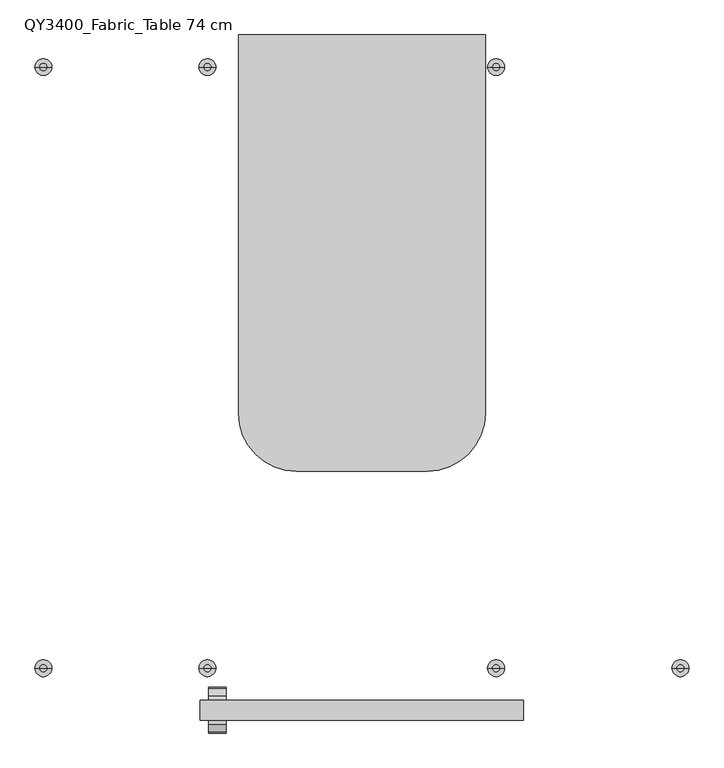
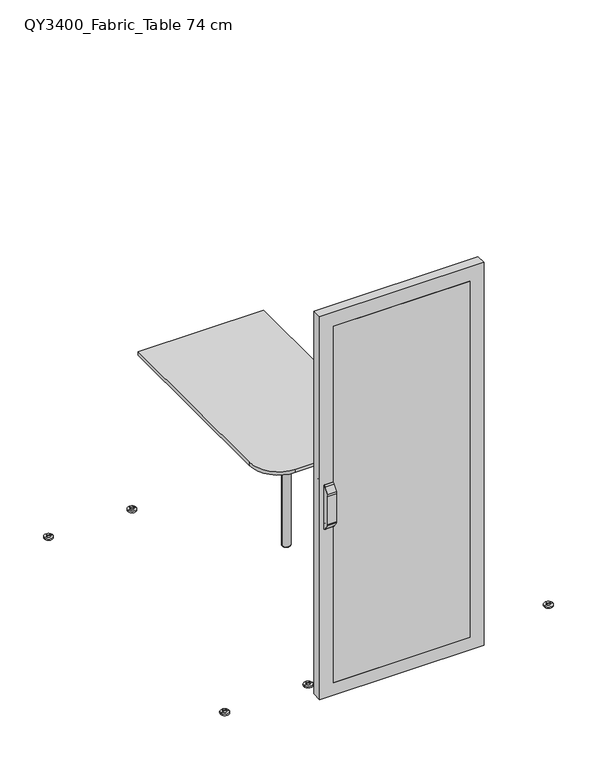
"""IFC4 building model written with IfcOpenShell, lengths in millimetres: furniture geometry, Qyos_400 : QY3400_Fabric_Table 74 cm."""

from ifc_helpers import new_model, si_unit, point, frame, frame_2d, origin, origin_with_axes, place, context, project, spatial, polyline, circle_curve, ellipse_curve, trimmed, segment, composite_curve, outline, extrude, source, transform, mapped, element, save
from ifc_brep_helpers import plane_surface, cylinder_surface, revolved_surface, advanced_brep


def qy3400_fabric_table_74_cm_427fdd12(model_context):
    return source(origin(), model_context, "Body", "SolidModel", [
        advanced_brep(
        [(-374.085107, -970.6314016, 980.9779398), (-374.085107, -970.6314016, 985.9647191), (-374.085107, -982.9469969, 991.7354618), (-374.085107, -1000.0438473, 1019.0961419), (-374.085107, -1002.6320377, 1028.7554001), (-374.085107, -1002.6320377, 1173.7554001), (-374.085107, -998.2020658, 1196.5456299), (-374.085107, -981.4262787, 1221.4167571), (-374.085107, -970.6314016, 1224.0702851), (-374.085107, -970.6314016, 1230.9669096), (-374.085107, -982.162848, 1226.3079029), (-374.085107, -1002.7819627, 1194.5572505), (-374.085107, -1005.5, 1186.1919919), (-374.085107, -1005.5, 1025.2), (-374.085107, -1002.5610872, 1017.1254034), (-374.085107, -982.1968679, 985.7672556), (-422.0329647, -970.6314016, 1230.9669096), (-422.0329647, -970.6314016, 980.9779398), (-422.0329647, -982.1968679, 985.7672556), (-422.0329647, -1002.5610872, 1017.1254034), (-422.0329647, -1005.5, 1025.2), (-422.0329647, -1005.5, 1186.1919919), (-422.0329647, -1002.7819627, 1194.5572505), (-422.0329647, -982.162848, 1226.3079029), (-419.3636893, -970.6314016, 1224.0702851), (-419.3636893, -970.6314016, 985.9647191), (-419.3636893, -982.9469969, 991.7354618), (-419.3636893, -981.4262787, 1221.4167571), (-419.3636893, -998.2020658, 1196.5456299), (-419.3636893, -1002.6320377, 1173.7554001), (-419.3636893, -1002.6320377, 1028.7554001), (-419.3636893, -1000.0438473, 1019.0961419)],
        [
            (0, 1),
            (1, 2, circle_curve(frame((-374.085107, -970.4805644, 1002.3136249), z_axis=(-1.0, 0.0, 0.0), x_axis=(0.0, -1.0, 0.0)), 16.3496016)),
            (2, 3, circle_curve(frame((-374.085107, 675.4570487, 2047.0433119), z_axis=(-1.0, 0.0, 0.0), x_axis=(0.0, -1.0, 0.0)), 1965.7005461)),
            (3, 4, circle_curve(frame((-374.085107, -985.0644692, 1028.286235), z_axis=(-1.0, 0.0, 0.0), x_axis=(0.0, -1.0, 0.0)), 17.5738323)),
            (4, 5),
            (5, 6, circle_curve(frame((-374.085107, -941.7942676, 1173.7554001), z_axis=(-1.0, 0.0, 0.0), x_axis=(0.0, -1.0, 0.0)), 60.8377701)),
            (6, 7, circle_curve(frame((-374.085107, -1257.3576761, 1389.4415655), z_axis=(1.0, 0.0, 0.0), x_axis=(0.0, -1.0, 0.0)), 323.0641922)),
            (7, 8, circle_curve(frame((-374.085107, -970.6314016, 1200.7860796), z_axis=(-1.0, 0.0, 0.0), x_axis=(0.0, -1.0, 0.0)), 23.2842055)),
            (8, 9),
            (9, 10, circle_curve(frame((-374.085107, -972.4087289, 1218.7657801), z_axis=(1.0, 0.0, 0.0), x_axis=(0.0, -1.0, 0.0)), 12.3299009)),
            (10, 11, circle_curve(frame((-374.085107, -373.9237769, 808.7424006), z_axis=(1.0, 0.0, 0.0), x_axis=(0.0, -1.0, 0.0)), 737.777552)),
            (11, 12, circle_curve(frame((-374.085107, -986.7589098, 1184.7268438), z_axis=(1.0, 0.0, 0.0), x_axis=(0.0, -1.0, 0.0)), 18.7982744)),
            (12, 13),
            (13, 14, circle_curve(frame((-374.085107, -958.525418, 1037.7252129), z_axis=(1.0, 0.0, 0.0), x_axis=(0.0, -1.0, 0.0)), 48.615762)),
            (14, 15, circle_curve(frame((-374.085107, -605.5394908, 1252.6628295), z_axis=(1.0, 0.0, 0.0), x_axis=(0.0, -1.0, 0.0)), 461.6319174)),
            (15, 0, circle_curve(frame((-374.085107, -972.6091735, 992.560998), z_axis=(1.0, 0.0, 0.0), x_axis=(0.0, -1.0, 0.0)), 11.7506945)),
            (16, 17),
            (17, 18, circle_curve(frame((-422.0329647, -972.6091735, 992.560998), z_axis=(-1.0, 0.0, 0.0), x_axis=(0.0, -1.0, 0.0)), 11.7506945)),
            (18, 19, circle_curve(frame((-422.0329647, -605.5394908, 1252.6628295), z_axis=(-1.0, 0.0, 0.0), x_axis=(0.0, -1.0, 0.0)), 461.6319174)),
            (19, 20, circle_curve(frame((-422.0329647, -958.525418, 1037.7252129), z_axis=(-1.0, 0.0, 0.0), x_axis=(0.0, -1.0, 0.0)), 48.615762)),
            (20, 21),
            (21, 22, circle_curve(frame((-422.0329647, -986.7589098, 1184.7268438), z_axis=(-1.0, 0.0, 0.0), x_axis=(0.0, -1.0, 0.0)), 18.7982744)),
            (22, 23, circle_curve(frame((-422.0329647, -373.9237769, 808.7424006), z_axis=(-1.0, 0.0, 0.0), x_axis=(0.0, -1.0, 0.0)), 737.777552)),
            (23, 16, circle_curve(frame((-422.0329647, -972.4087289, 1218.7657801), z_axis=(-1.0, 0.0, 0.0), x_axis=(0.0, -1.0, 0.0)), 12.3299009)),
            (16, 9),
            (8, 24),
            (24, 25),
            (25, 1),
            (0, 17),
            (15, 18),
            (14, 19),
            (13, 20),
            (12, 21),
            (11, 22),
            (10, 23),
            (26, 25, circle_curve(frame((-419.3636893, -970.4805644, 1002.3136249), z_axis=(1.0, 0.0, 0.0), x_axis=(0.0, -1.0, 0.0)), 16.3496016)),
            (24, 27, circle_curve(frame((-419.3636893, -970.6314016, 1200.7860796), z_axis=(1.0, 0.0, 0.0), x_axis=(0.0, -1.0, 0.0)), 23.2842055)),
            (27, 28, circle_curve(frame((-419.3636893, -1257.3576761, 1389.4415655), z_axis=(-1.0, 0.0, 0.0), x_axis=(0.0, -1.0, 0.0)), 323.0641922)),
            (28, 29, circle_curve(frame((-419.3636893, -941.7942676, 1173.7554001), z_axis=(1.0, 0.0, 0.0), x_axis=(0.0, -1.0, 0.0)), 60.8377701)),
            (29, 30),
            (30, 31, circle_curve(frame((-419.3636893, -985.0644692, 1028.286235), z_axis=(1.0, 0.0, 0.0), x_axis=(0.0, -1.0, 0.0)), 17.5738323)),
            (31, 26, circle_curve(frame((-419.3636893, 675.4570487, 2047.0433119), z_axis=(1.0, 0.0, 0.0), x_axis=(0.0, -1.0, 0.0)), 1965.7005461)),
            (26, 2),
            (31, 3),
            (30, 4),
            (29, 5),
            (28, 6),
            (27, 7),
        ],
        [
            plane_surface(frame((-374.085107, -970.6314016, 980.9779398), z_axis=(1.0, 0.0, 0.0), x_axis=(0.0, 0.0, -1.0))),
            plane_surface(frame((-422.0329647, -970.6314016, 980.9779398), z_axis=(-1.0, 0.0, 0.0), x_axis=(0.0, 0.0, 1.0))),
            plane_surface(frame((-374.085107, -970.6314016, 1230.9669096), z_axis=(0.0, 1.0, 0.0), x_axis=(-1.0, 0.0, 0.0))),
            cylinder_surface(frame((-422.0329647, -972.6091735, 992.560998), z_axis=(1.0, 0.0, 0.0), x_axis=(0.0, -1.0, 0.0)), 11.7506945),
            cylinder_surface(frame((-422.0329647, -605.5394908, 1252.6628295), z_axis=(1.0, 0.0, 0.0), x_axis=(0.0, -1.0, 0.0)), 461.6319174),
            cylinder_surface(frame((-422.0329647, -958.525418, 1037.7252129), z_axis=(1.0, 0.0, 0.0), x_axis=(0.0, -1.0, 0.0)), 48.615762),
            plane_surface(frame((-374.085107, -1005.5, 1025.2), z_axis=(0.0, -1.0, 0.0), x_axis=(-1.0, 0.0, 0.0))),
            cylinder_surface(frame((-422.0329647, -986.7589098, 1184.7268438), z_axis=(1.0, 0.0, 0.0), x_axis=(0.0, -1.0, 0.0)), 18.7982744),
            cylinder_surface(frame((-422.0329647, -373.9237769, 808.7424006), z_axis=(1.0, 0.0, 0.0), x_axis=(0.0, -1.0, 0.0)), 737.777552),
            cylinder_surface(frame((-422.0329647, -972.4087289, 1218.7657801), z_axis=(1.0, 0.0, 0.0), x_axis=(0.0, -1.0, 0.0)), 12.3299009),
            plane_surface(frame((-419.3636893, -956.7185794, 1224.0702851), z_axis=(1.0, 0.0, 0.0), x_axis=(0.0, 0.0, 1.0))),
            revolved_surface(polyline([(-374.085107, -986.8301660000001, 1002.3136249), (-419.3636893, -986.8301660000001, 1002.3136249)]), (-419.3636893, -970.4805644, 1002.3136249), (1.0, 0.0, 0.0)),
            revolved_surface(polyline([(-374.085107, -1290.2434974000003, 2047.0433119), (-419.3636893, -1290.2434974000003, 2047.0433119)]), (-419.3636893, 675.4570487, 2047.0433119), (1.0, 0.0, 0.0)),
            revolved_surface(polyline([(-374.085107, -1002.6383015, 1028.286235), (-419.3636893, -1002.6383015, 1028.286235)]), (-419.3636893, -985.0644692, 1028.286235), (1.0, 0.0, 0.0)),
            plane_surface(frame((-366.879078, -1002.6320377, 1028.7554001), z_axis=(0.0, 1.0, 0.0), x_axis=(-1.0, 0.0, 0.0))),
            revolved_surface(polyline([(-374.085107, -1002.6320377, 1173.7554001), (-419.3636893, -1002.6320377, 1173.7554001)]), (-419.3636893, -941.7942676, 1173.7554001), (1.0, 0.0, 0.0)),
            cylinder_surface(frame((-419.3636893, -1257.3576761, 1389.4415655), z_axis=(-1.0, 0.0, 0.0), x_axis=(0.0, -1.0, 0.0)), 323.0641922),
            revolved_surface(polyline([(-374.085107, -993.9156071, 1200.7860796), (-419.3636893, -993.9156071, 1200.7860796)]), (-419.3636893, -970.6314016, 1200.7860796), (1.0, 0.0, 0.0)),
        ],
        [
            (0, [[1, 2, 3, 4, 5, 6, 7, 8, 9, 10, 11, 12, 13, 14, 15, 16]]),
            (1, [[17, 18, 19, 20, 21, 22, 23, 24]]),
            (2, [[25, -9, 26, 27, 28, -1, 29, -17]]),
            (3, [[30, -18, -29, -16]]),
            (4, [[31, -19, -30, -15]]),
            (5, [[32, -20, -31, -14]]),
            (6, [[33, -21, -32, -13]]),
            (7, [[34, -22, -33, -12]]),
            (8, [[35, -23, -34, -11]]),
            (9, [[-25, -24, -35, -10]]),
            (10, [[36, -27, 37, 38, 39, 40, 41, 42]]),
            (11, [[43, -2, -28, -36]]),
            (12, [[44, -3, -43, -42]]),
            (13, [[45, -4, -44, -41]]),
            (14, [[46, -5, -45, -40]]),
            (15, [[47, -6, -46, -39]]),
            (16, [[48, -7, -47, -38]]),
            (17, [[-26, -8, -48, -37]]),
        ],
    ),
        extrude(outline(composite_curve([segment(polyline([(1230.9669096, -377.0853832), (1230.9669096, -417.0486701)]), True, "CONTINUOUS"), segment(trimmed(circle_curve(frame_2d((1225.973762, -417.0486701)), 4.9931477), [point((1230.9669096, -417.0486701))], [point((1225.973762, -422.0418178))], False, "CARTESIAN"), True, "CONTINUOUS"), segment(polyline([(1225.973762, -422.0418178), (985.9710874, -422.0418178)]), True, "CONTINUOUS"), segment(trimmed(circle_curve(frame_2d((985.9710874, -417.0486701)), 4.9931477), [point((985.9710874, -422.0418178))], [point((980.9779398, -417.0486701))], False, "CARTESIAN"), True, "CONTINUOUS"), segment(polyline([(980.9779398, -417.0486701), (980.9779398, -377.0831887)]), True, "CONTINUOUS"), segment(trimmed(circle_curve(frame_2d((983.9760215, -377.0831887)), 2.9980817), [point((980.9779398, -377.0831887))], [point((983.9760215, -374.085107))], False, "CARTESIAN"), True, "CONTINUOUS"), segment(polyline([(983.9760215, -374.085107), (985.9777208, -374.085107)]), True, "CONTINUOUS"), segment(trimmed(circle_curve(frame_2d((985.9777208, -376.3357001)), 2.2505931), [point((985.9777208, -374.085107))], [point((988.1941223, -375.9448887))], False, "CARTESIAN"), True, "CONTINUOUS"), segment(trimmed(circle_curve(frame_2d((1002.686839, -375.1402608)), 14.5150358), [point((988.1941223, -375.9448887))], [point((999.6402401, -389.331966))], True, "CARTESIAN"), True, "CONTINUOUS"), segment(trimmed(circle_curve(frame_2d((999.3564071, -397.3512428)), 8.0242982), [point((999.6402401, -389.331966))], [point((1007.3803501, -397.4267349))], False, "CARTESIAN"), True, "CONTINUOUS"), segment(trimmed(circle_curve(frame_2d((984.8527266, -400.9632944)), 22.803532), [point((1007.3803501, -397.4267349))], [point((1007.3098217, -404.9230861))], False, "CARTESIAN"), True, "CONTINUOUS"), segment(trimmed(circle_curve(frame_2d((1018.7344643, -406.9375589)), 11.600886), [point((1007.3098217, -404.9230861))], [point((1018.7344643, -418.5384449))], True, "CARTESIAN"), True, "CONTINUOUS"), segment(polyline([(1018.7344643, -418.5384449), (1193.2103851, -418.5384449)]), True, "CONTINUOUS"), segment(trimmed(circle_curve(frame_2d((1193.2103851, -406.5714853)), 11.9669596), [point((1193.2103851, -418.5384449))], [point((1205.1773447, -406.5714853))], True, "CARTESIAN"), True, "CONTINUOUS"), segment(polyline([(1205.1773447, -406.5714853), (1205.1773447, -398.0395804)]), True, "CONTINUOUS"), segment(trimmed(circle_curve(frame_2d((1213.8757406, -398.0395804)), 8.6983958), [point((1205.1773447, -398.0395804))], [point((1212.36528, -389.4733327))], False, "CARTESIAN"), True, "CONTINUOUS"), segment(trimmed(circle_curve(frame_2d((1209.9037954, -375.5135599)), 14.1751248), [point((1212.36528, -389.4733327))], [point((1224.0702851, -376.0082646))], True, "CARTESIAN"), True, "CONTINUOUS"), segment(trimmed(circle_curve(frame_2d((1225.9934427, -376.0082646)), 1.9231576), [point((1224.0702851, -376.0082646))], [point((1225.9934427, -374.085107))], False, "CARTESIAN"), True, "CONTINUOUS"), segment(polyline([(1225.9934427, -374.085107), (1227.9666334, -374.085107)]), True, "CONTINUOUS"), segment(trimmed(circle_curve(frame_2d((1227.9666334, -377.0853832)), 3.0002762), [point((1227.9666334, -374.085107))], [point((1230.9669096, -377.0853832))], False, "CARTESIAN"), True, "CONTINUOUS")], self_intersect=False)), frame((0.0, -970.6314016, 0.0), z_axis=(0.0, 1.0, 0.0), x_axis=(0.0, 0.0, 1.0)), (0.0, 0.0, 1.0), 0.6314016),
        advanced_brep(
        [(-374.085107, -914.3642803, 980.9779398), (-374.085107, -902.798814, 985.7672556), (-374.085107, -882.4345947, 1017.1254034), (-374.085107, -879.4956819, 1025.2), (-374.085107, -879.4956819, 1186.1919919), (-374.085107, -882.2137192, 1194.5572505), (-374.085107, -902.8328339, 1226.3079029), (-374.085107, -914.3642803, 1230.9669096), (-374.085107, -914.3642803, 1224.0702851), (-374.085107, -903.5694032, 1221.4167571), (-374.085107, -886.7936161, 1196.5456299), (-374.085107, -882.3636441, 1173.7554001), (-374.085107, -882.3636441, 1028.7554001), (-374.085107, -884.9518346, 1019.0961419), (-374.085107, -902.048685, 991.7354618), (-374.085107, -914.3642803, 985.9647191), (-422.0329647, -914.3642803, 1230.9669096), (-422.0329647, -902.8328339, 1226.3079029), (-422.0329647, -882.2137192, 1194.5572505), (-422.0329647, -879.4956819, 1186.1919919), (-422.0329647, -879.4956819, 1025.2), (-422.0329647, -882.4345947, 1017.1254034), (-422.0329647, -902.798814, 985.7672556), (-422.0329647, -914.3642803, 980.9779398), (-419.3636893, -914.3642803, 985.9647191), (-419.3636893, -914.3642803, 1224.0702851), (-419.3636893, -902.048685, 991.7354618), (-419.3636893, -884.9518346, 1019.0961419), (-419.3636893, -882.3636441, 1028.7554001), (-419.3636893, -882.3636441, 1173.7554001), (-419.3636893, -886.7936161, 1196.5456299), (-419.3636893, -903.5694032, 1221.4167571)],
        [
            (0, 1, circle_curve(frame((-374.085107, -912.3865084, 992.560998), z_axis=(1.0, 0.0, 0.0), x_axis=(0.0, 1.0, 0.0)), 11.7506945)),
            (1, 2, circle_curve(frame((-374.085107, -1279.4561911, 1252.6628295), z_axis=(1.0, 0.0, 0.0), x_axis=(0.0, 1.0, 0.0)), 461.6319174)),
            (2, 3, circle_curve(frame((-374.085107, -926.4702639, 1037.7252129), z_axis=(1.0, 0.0, 0.0), x_axis=(0.0, 1.0, 0.0)), 48.615762)),
            (3, 4),
            (4, 5, circle_curve(frame((-374.085107, -898.236772, 1184.7268438), z_axis=(1.0, 0.0, 0.0), x_axis=(0.0, 1.0, 0.0)), 18.7982744)),
            (5, 6, circle_curve(frame((-374.085107, -1511.071905, 808.7424006), z_axis=(1.0, 0.0, 0.0), x_axis=(0.0, 1.0, 0.0)), 737.777552)),
            (6, 7, circle_curve(frame((-374.085107, -912.586953, 1218.7657801), z_axis=(1.0, 0.0, 0.0), x_axis=(0.0, 1.0, 0.0)), 12.3299009)),
            (7, 8),
            (8, 9, circle_curve(frame((-374.085107, -914.3642803, 1200.7860796), z_axis=(-1.0, 0.0, 0.0), x_axis=(0.0, 1.0, 0.0)), 23.2842055)),
            (9, 10, circle_curve(frame((-374.085107, -627.6380058, 1389.4415655), z_axis=(1.0, 0.0, 0.0), x_axis=(0.0, 1.0, 0.0)), 323.0641922)),
            (10, 11, circle_curve(frame((-374.085107, -943.2014142, 1173.7554001), z_axis=(-1.0, 0.0, 0.0), x_axis=(0.0, 1.0, 0.0)), 60.8377701)),
            (11, 12),
            (12, 13, circle_curve(frame((-374.085107, -899.9312127, 1028.286235), z_axis=(-1.0, 0.0, 0.0), x_axis=(0.0, 1.0, 0.0)), 17.5738323)),
            (13, 14, circle_curve(frame((-374.085107, -2560.4527306, 2047.0433119), z_axis=(-1.0, 0.0, 0.0), x_axis=(0.0, 1.0, 0.0)), 1965.7005461)),
            (14, 15, circle_curve(frame((-374.085107, -914.5151175, 1002.3136249), z_axis=(-1.0, 0.0, 0.0), x_axis=(0.0, 1.0, 0.0)), 16.3496016)),
            (15, 0),
            (16, 17, circle_curve(frame((-422.0329647, -912.586953, 1218.7657801), z_axis=(-1.0, 0.0, 0.0), x_axis=(0.0, 1.0, 0.0)), 12.3299009)),
            (17, 18, circle_curve(frame((-422.0329647, -1511.071905, 808.7424006), z_axis=(-1.0, 0.0, 0.0), x_axis=(0.0, 1.0, 0.0)), 737.777552)),
            (18, 19, circle_curve(frame((-422.0329647, -898.236772, 1184.7268438), z_axis=(-1.0, 0.0, 0.0), x_axis=(0.0, 1.0, 0.0)), 18.7982744)),
            (19, 20),
            (20, 21, circle_curve(frame((-422.0329647, -926.4702639, 1037.7252129), z_axis=(-1.0, 0.0, 0.0), x_axis=(0.0, 1.0, 0.0)), 48.615762)),
            (21, 22, circle_curve(frame((-422.0329647, -1279.4561911, 1252.6628295), z_axis=(-1.0, 0.0, 0.0), x_axis=(0.0, 1.0, 0.0)), 461.6319174)),
            (22, 23, circle_curve(frame((-422.0329647, -912.3865084, 992.560998), z_axis=(-1.0, 0.0, 0.0), x_axis=(0.0, 1.0, 0.0)), 11.7506945)),
            (23, 16),
            (23, 0),
            (15, 24),
            (24, 25),
            (25, 8),
            (7, 16),
            (22, 1),
            (21, 2),
            (20, 3),
            (19, 4),
            (18, 5),
            (17, 6),
            (26, 27, circle_curve(frame((-419.3636893, -2560.4527306, 2047.0433119), z_axis=(1.0, 0.0, 0.0), x_axis=(0.0, 1.0, 0.0)), 1965.7005461)),
            (27, 28, circle_curve(frame((-419.3636893, -899.9312127, 1028.286235), z_axis=(1.0, 0.0, 0.0), x_axis=(0.0, 1.0, 0.0)), 17.5738323)),
            (28, 29),
            (29, 30, circle_curve(frame((-419.3636893, -943.2014142, 1173.7554001), z_axis=(1.0, 0.0, 0.0), x_axis=(0.0, 1.0, 0.0)), 60.8377701)),
            (30, 31, circle_curve(frame((-419.3636893, -627.6380058, 1389.4415655), z_axis=(-1.0, 0.0, 0.0), x_axis=(0.0, 1.0, 0.0)), 323.0641922)),
            (31, 25, circle_curve(frame((-419.3636893, -914.3642803, 1200.7860796), z_axis=(1.0, 0.0, 0.0), x_axis=(0.0, 1.0, 0.0)), 23.2842055)),
            (24, 26, circle_curve(frame((-419.3636893, -914.5151175, 1002.3136249), z_axis=(1.0, 0.0, 0.0), x_axis=(0.0, 1.0, 0.0)), 16.3496016)),
            (14, 26),
            (13, 27),
            (12, 28),
            (11, 29),
            (10, 30),
            (9, 31),
        ],
        [
            plane_surface(frame((-374.085107, -914.3642803, 980.9779398), z_axis=(1.0, 0.0, 0.0), x_axis=(0.0, 0.0, -1.0))),
            plane_surface(frame((-422.0329647, -914.3642803, 980.9779398), z_axis=(-1.0, 0.0, 0.0), x_axis=(0.0, 0.0, 1.0))),
            plane_surface(frame((-374.085107, -914.3642803, 1230.9669096), z_axis=(0.0, -1.0, 0.0), x_axis=(-1.0, 0.0, 0.0))),
            cylinder_surface(frame((-422.0329647, -912.3865084, 992.560998), z_axis=(1.0, 0.0, 0.0), x_axis=(0.0, 1.0, 0.0)), 11.7506945),
            cylinder_surface(frame((-422.0329647, -1279.4561911, 1252.6628295), z_axis=(1.0, 0.0, 0.0), x_axis=(0.0, 1.0, 0.0)), 461.6319174),
            cylinder_surface(frame((-422.0329647, -926.4702639, 1037.7252129), z_axis=(1.0, 0.0, 0.0), x_axis=(0.0, 1.0, 0.0)), 48.615762),
            plane_surface(frame((-374.085107, -879.4956819, 1025.2), z_axis=(0.0, 1.0, 0.0), x_axis=(-1.0, 0.0, 0.0))),
            cylinder_surface(frame((-422.0329647, -898.236772, 1184.7268438), z_axis=(1.0, 0.0, 0.0), x_axis=(0.0, 1.0, 0.0)), 18.7982744),
            cylinder_surface(frame((-422.0329647, -1511.071905, 808.7424006), z_axis=(1.0, 0.0, 0.0), x_axis=(0.0, 1.0, 0.0)), 737.777552),
            cylinder_surface(frame((-422.0329647, -912.586953, 1218.7657801), z_axis=(1.0, 0.0, 0.0), x_axis=(0.0, 1.0, 0.0)), 12.3299009),
            plane_surface(frame((-419.3636893, -928.2771024, 1224.0702851), z_axis=(1.0, 0.0, 0.0), x_axis=(0.0, 0.0, 1.0))),
            revolved_surface(polyline([(-374.085107, -898.1655159, 1002.3136249), (-419.3636893, -898.1655159, 1002.3136249)]), (-419.3636893, -914.5151175, 1002.3136249), (1.0, 0.0, 0.0)),
            revolved_surface(polyline([(-374.085107, -594.7521844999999, 2047.0433119), (-419.3636893, -594.7521844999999, 2047.0433119)]), (-419.3636893, -2560.4527306, 2047.0433119), (1.0, 0.0, 0.0)),
            revolved_surface(polyline([(-374.085107, -882.3573803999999, 1028.286235), (-419.3636893, -882.3573803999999, 1028.286235)]), (-419.3636893, -899.9312127, 1028.286235), (1.0, 0.0, 0.0)),
            plane_surface(frame((-366.879078, -882.3636441, 1028.7554001), z_axis=(0.0, -1.0, 0.0), x_axis=(-1.0, 0.0, 0.0))),
            revolved_surface(polyline([(-374.085107, -882.3636441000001, 1173.7554001), (-419.3636893, -882.3636441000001, 1173.7554001)]), (-419.3636893, -943.2014142, 1173.7554001), (1.0, 0.0, 0.0)),
            cylinder_surface(frame((-419.3636893, -627.6380058, 1389.4415655), z_axis=(-1.0, 0.0, 0.0), x_axis=(0.0, 1.0, 0.0)), 323.0641922),
            revolved_surface(polyline([(-374.085107, -891.0800748, 1200.7860796), (-419.3636893, -891.0800748, 1200.7860796)]), (-419.3636893, -914.3642803, 1200.7860796), (1.0, 0.0, 0.0)),
        ],
        [
            (0, [[1, 2, 3, 4, 5, 6, 7, 8, 9, 10, 11, 12, 13, 14, 15, 16]]),
            (1, [[17, 18, 19, 20, 21, 22, 23, 24]]),
            (2, [[-24, 25, -16, 26, 27, 28, -8, 29]]),
            (3, [[-1, -25, -23, 30]]),
            (4, [[-2, -30, -22, 31]]),
            (5, [[-3, -31, -21, 32]]),
            (6, [[-4, -32, -20, 33]]),
            (7, [[-5, -33, -19, 34]]),
            (8, [[-6, -34, -18, 35]]),
            (9, [[-7, -35, -17, -29]]),
            (10, [[36, 37, 38, 39, 40, 41, -27, 42]]),
            (11, [[-42, -26, -15, 43]]),
            (12, [[-36, -43, -14, 44]]),
            (13, [[-37, -44, -13, 45]]),
            (14, [[-38, -45, -12, 46]]),
            (15, [[-39, -46, -11, 47]]),
            (16, [[-40, -47, -10, 48]]),
            (17, [[-41, -48, -9, -28]]),
        ],
    ),
        extrude(outline(composite_curve([segment(polyline([(1230.9669096, -377.0853832), (1230.9669096, -417.0486701)]), True, "CONTINUOUS"), segment(trimmed(circle_curve(frame_2d((1225.973762, -417.0486701)), 4.9931477), [point((1230.9669096, -417.0486701))], [point((1225.973762, -422.0418178))], False, "CARTESIAN"), True, "CONTINUOUS"), segment(polyline([(1225.973762, -422.0418178), (985.9710874, -422.0418178)]), True, "CONTINUOUS"), segment(trimmed(circle_curve(frame_2d((985.9710874, -417.0486701)), 4.9931477), [point((985.9710874, -422.0418178))], [point((980.9779398, -417.0486701))], False, "CARTESIAN"), True, "CONTINUOUS"), segment(polyline([(980.9779398, -417.0486701), (980.9779398, -377.0831887)]), True, "CONTINUOUS"), segment(trimmed(circle_curve(frame_2d((983.9760215, -377.0831887)), 2.9980817), [point((980.9779398, -377.0831887))], [point((983.9760215, -374.085107))], False, "CARTESIAN"), True, "CONTINUOUS"), segment(polyline([(983.9760215, -374.085107), (985.9777208, -374.085107)]), True, "CONTINUOUS"), segment(trimmed(circle_curve(frame_2d((985.9777208, -376.3357001)), 2.2505931), [point((985.9777208, -374.085107))], [point((988.1941223, -375.9448887))], False, "CARTESIAN"), True, "CONTINUOUS"), segment(trimmed(circle_curve(frame_2d((1002.686839, -375.1402608)), 14.5150358), [point((988.1941223, -375.9448887))], [point((999.6402401, -389.331966))], True, "CARTESIAN"), True, "CONTINUOUS"), segment(trimmed(circle_curve(frame_2d((999.3564071, -397.3512428)), 8.0242982), [point((999.6402401, -389.331966))], [point((1007.3803501, -397.4267349))], False, "CARTESIAN"), True, "CONTINUOUS"), segment(trimmed(circle_curve(frame_2d((984.8527266, -400.9632944)), 22.803532), [point((1007.3803501, -397.4267349))], [point((1007.3098217, -404.9230861))], False, "CARTESIAN"), True, "CONTINUOUS"), segment(trimmed(circle_curve(frame_2d((1018.7344643, -406.9375589)), 11.600886), [point((1007.3098217, -404.9230861))], [point((1018.7344643, -418.5384449))], True, "CARTESIAN"), True, "CONTINUOUS"), segment(polyline([(1018.7344643, -418.5384449), (1193.2103851, -418.5384449)]), True, "CONTINUOUS"), segment(trimmed(circle_curve(frame_2d((1193.2103851, -406.5714853)), 11.9669596), [point((1193.2103851, -418.5384449))], [point((1205.1773447, -406.5714853))], True, "CARTESIAN"), True, "CONTINUOUS"), segment(polyline([(1205.1773447, -406.5714853), (1205.1773447, -398.0395804)]), True, "CONTINUOUS"), segment(trimmed(circle_curve(frame_2d((1213.8757406, -398.0395804)), 8.6983958), [point((1205.1773447, -398.0395804))], [point((1212.36528, -389.4733327))], False, "CARTESIAN"), True, "CONTINUOUS"), segment(trimmed(circle_curve(frame_2d((1209.9037954, -375.5135599)), 14.1751248), [point((1212.36528, -389.4733327))], [point((1224.0702851, -376.0082646))], True, "CARTESIAN"), True, "CONTINUOUS"), segment(trimmed(circle_curve(frame_2d((1225.9934427, -376.0082646)), 1.9231576), [point((1224.0702851, -376.0082646))], [point((1225.9934427, -374.085107))], False, "CARTESIAN"), True, "CONTINUOUS"), segment(polyline([(1225.9934427, -374.085107), (1227.9666334, -374.085107)]), True, "CONTINUOUS"), segment(trimmed(circle_curve(frame_2d((1227.9666334, -377.0853832)), 3.0002762), [point((1227.9666334, -374.085107))], [point((1230.9669096, -377.0853832))], False, "CARTESIAN"), True, "CONTINUOUS")], self_intersect=False)), frame((0.0, -914.9956819, 0.0), z_axis=(0.0, 1.0, 0.0), x_axis=(0.0, 0.0, 1.0)), (0.0, 0.0, 1.0), 0.6314016),
        extrude(outline(polyline([(369.5, -970.0), (-369.5, -970.0), (-369.5, -965.0), (369.5, -965.0), (369.5, -970.0)])), frame((0.0, 0.0, 82.0), z_axis=(0.0, 0.0, 1.0), x_axis=(1.0, 0.0, 0.0)), (0.0, 0.0, 1.0), 2040.1),
        extrude(outline(polyline([(10.0, -445.0), (10.0, 445.0), (2202.1, 445.0), (2202.1, -445.0), (10.0, -445.0)]), holes=[polyline([(82.0, 369.5), (82.0, -369.5), (2122.1, -369.5), (2122.1, 369.5), (82.0, 369.5)])]), frame((0.0, -970.0, 0.0), z_axis=(0.0, 1.0, 0.0), x_axis=(0.0, 0.0, 1.0)), (0.0, 0.0, 1.0), 55.0043181),
        advanced_brep(
        [(-18.7621631, 115.0, 82.0), (18.7621631, 115.0, 82.0), (0.0, 115.0, 82.0), (-22.480604, 115.0, 85.7184409), (22.480604, 115.0, 85.7184409), (-22.480604, 115.0, 803.0), (22.480604, 115.0, 803.0), (0.0, 115.0, 803.0)],
        [
            (0, 1, circle_curve(frame((0.0, 115.0, 82.0), z_axis=(0.0, 0.0, -1.0), x_axis=(1.0, 0.0, 0.0)), 18.7621631)),
            (1, 2),
            (2, 0),
            (1, 0, circle_curve(frame((0.0, 115.0, 82.0), z_axis=(0.0, 0.0, -1.0), x_axis=(1.0, 0.0, 0.0)), 18.7621631)),
            (3, 4, circle_curve(frame((0.0, 115.0, 85.7184409), z_axis=(0.0, 0.0, -1.0), x_axis=(1.0, 0.0, 0.0)), 22.480604)),
            (4, 1, circle_curve(frame((16.4330916, 115.0, 88.0475124), z_axis=(0.0, 1.0, 0.0), x_axis=(1.0, 0.0, 0.0)), 6.4805077)),
            (0, 3, circle_curve(frame((-16.4330916, 115.0, 88.0475124), z_axis=(0.0, 1.0, 0.0), x_axis=(-1.0, 0.0, 0.0)), 6.4805077)),
            (4, 3, circle_curve(frame((0.0, 115.0, 85.7184409), z_axis=(0.0, 0.0, -1.0), x_axis=(1.0, 0.0, 0.0)), 22.480604)),
            (5, 6, circle_curve(frame((0.0, 115.0, 803.0), z_axis=(0.0, 0.0, -1.0), x_axis=(1.0, 0.0, 0.0)), 22.480604)),
            (6, 4),
            (3, 5),
            (6, 5, circle_curve(frame((0.0, 115.0, 803.0), z_axis=(0.0, 0.0, -1.0), x_axis=(1.0, 0.0, 0.0)), 22.480604)),
            (7, 6),
            (5, 7),
        ],
        [
            plane_surface(frame((0.0, 115.0, 82.0), z_axis=(0.0, 0.0, -1.0), x_axis=(1.0, 0.0, 0.0))),
            revolved_surface(trimmed(ellipse_curve(frame((16.4330916, 115.0, 88.0475124), z_axis=(0.0, -1.0, 0.0), x_axis=(1.0, 0.0, 0.0)), 6.4805077, 6.4805077), [point((18.7621631, 115.0, 82.0))], [point((22.480604, 115.0, 85.7184409))], True, "CARTESIAN"), (0.0, 115.0, 1997.4144888), (0.0, 0.0, 1.0)),
            cylinder_surface(frame((0.0, 115.0, 1997.4144888), z_axis=(0.0, 0.0, 1.0), x_axis=(1.0, 0.0, 0.0)), 22.480604),
            plane_surface(frame((0.0, 115.0, 803.0), z_axis=(0.0, 0.0, 1.0), x_axis=(1.0, 0.0, 0.0))),
        ],
        [
            (0, [[1, 2, 3]]),
            (0, [[4, -3, -2]]),
            (1, [[5, 6, -1, 7]]),
            (1, [[8, -7, -4, -6]]),
            (2, [[9, 10, -5, 11]]),
            (2, [[12, -11, -8, -10]]),
            (3, [[13, -9, 14]]),
            (3, [[-14, -12, -13]]),
        ],
    ),
        extrude(outline(composite_curve([segment(polyline([(340.0, 915.0), (340.0, -125.0)]), True, "CONTINUOUS"), segment(trimmed(circle_curve(frame_2d((180.0, -125.0)), 160.0), [point((340.0, -125.0))], [point((180.0, -285.0))], False, "CARTESIAN"), True, "CONTINUOUS"), segment(polyline([(180.0, -285.0), (-180.0, -285.0)]), True, "CONTINUOUS"), segment(trimmed(circle_curve(frame_2d((-180.0, -125.0)), 160.0), [point((-180.0, -285.0))], [point((-340.0, -125.0))], False, "CARTESIAN"), True, "CONTINUOUS"), segment(polyline([(-340.0, -125.0), (-340.0, 915.0), (340.0, 915.0)]), True, "CONTINUOUS")], self_intersect=False)), frame((0.0, 0.0, 803.0), z_axis=(0.0, 0.0, 1.0), x_axis=(1.0, 0.0, 0.0)), (0.0, 0.0, 1.0), 19.0),
        advanced_brep(
        [(346.4071662, -827.0, 0.0), (392.690095, -827.0, 0.0), (369.5486306, -827.0, 0.0), (346.4071662, -827.0, 7.0), (392.690095, -827.0, 7.0), (359.9101752, -827.0, 7.0), (379.187086, -827.0, 7.0), (359.9101752, -827.0, 17.0), (379.187086, -827.0, 17.0), (369.5486306, -827.0, 17.0)],
        [
            (0, 1, circle_curve(frame((369.5486306, -827.0, 0.0), z_axis=(0.0, 0.0, -1.0), x_axis=(1.0, 0.0, 0.0)), 23.1414644)),
            (1, 2),
            (2, 0),
            (1, 0, circle_curve(frame((369.5486306, -827.0, 0.0), z_axis=(0.0, 0.0, -1.0), x_axis=(1.0, 0.0, 0.0)), 23.1414644)),
            (3, 4, circle_curve(frame((369.5486306, -827.0, 7.0), z_axis=(0.0, 0.0, -1.0), x_axis=(1.0, 0.0, 0.0)), 23.1414644)),
            (4, 1),
            (0, 3),
            (4, 3, circle_curve(frame((369.5486306, -827.0, 7.0), z_axis=(0.0, 0.0, -1.0), x_axis=(1.0, 0.0, 0.0)), 23.1414644)),
            (5, 6, circle_curve(frame((369.5486306, -827.0, 7.0), z_axis=(0.0, 0.0, -1.0), x_axis=(1.0, 0.0, 0.0)), 9.6384554)),
            (6, 4),
            (3, 5),
            (6, 5, circle_curve(frame((369.5486306, -827.0, 7.0), z_axis=(0.0, 0.0, -1.0), x_axis=(1.0, 0.0, 0.0)), 9.6384554)),
            (7, 8, circle_curve(frame((369.5486306, -827.0, 17.0), z_axis=(0.0, 0.0, -1.0), x_axis=(1.0, 0.0, 0.0)), 9.6384554)),
            (8, 6),
            (5, 7),
            (8, 7, circle_curve(frame((369.5486306, -827.0, 17.0), z_axis=(0.0, 0.0, -1.0), x_axis=(1.0, 0.0, 0.0)), 9.6384554)),
            (9, 8),
            (7, 9),
        ],
        [
            plane_surface(frame((369.5486306, -827.0, 0.0), z_axis=(0.0, 0.0, -1.0), x_axis=(1.0, 0.0, 0.0))),
            cylinder_surface(frame((369.5486306, -827.0, 1997.4144888), z_axis=(0.0, 0.0, 1.0), x_axis=(1.0, 0.0, 0.0)), 23.1414644),
            plane_surface(frame((369.5486306, -827.0, 7.0), z_axis=(0.0, 0.0, 1.0), x_axis=(1.0, 0.0, 0.0))),
            cylinder_surface(frame((369.5486306, -827.0, 1997.4144888), z_axis=(0.0, 0.0, 1.0), x_axis=(1.0, 0.0, 0.0)), 9.6384554),
            plane_surface(frame((369.5486306, -827.0, 17.0), z_axis=(0.0, 0.0, 1.0), x_axis=(1.0, 0.0, 0.0))),
        ],
        [
            (0, [[1, 2, 3]]),
            (0, [[4, -3, -2]]),
            (1, [[5, 6, -1, 7]]),
            (1, [[8, -7, -4, -6]]),
            (2, [[9, 10, -5, 11]]),
            (2, [[12, -11, -8, -10]]),
            (3, [[13, 14, -9, 15]]),
            (3, [[16, -15, -12, -14]]),
            (4, [[17, -13, 18]]),
            (4, [[-18, -16, -17]]),
        ],
    ),
        extrude(outline(composite_curve([segment(trimmed(circle_curve(frame_2d((369.5486306, -827.0)), 23.1414644), [point((346.4071662, -827.0))], [point((392.690095, -827.0))], False, "CARTESIAN"), True, "CONTINUOUS"), segment(trimmed(circle_curve(frame_2d((369.5486306, -827.0)), 23.1414644), [point((392.690095, -827.0))], [point((346.4071662, -827.0))], False, "CARTESIAN"), True, "CONTINUOUS")], self_intersect=False)), origin_with_axes(), (0.0, 0.0, 1.0), 7.0),
        advanced_brep(
        [(346.4071662, 827.0, 0.0), (392.690095, 827.0, 0.0), (369.5486306, 827.0, 0.0), (346.4071662, 827.0, 7.0), (392.690095, 827.0, 7.0), (359.9101752, 827.0, 7.0), (379.187086, 827.0, 7.0), (359.9101752, 827.0, 17.0), (379.187086, 827.0, 17.0), (369.5486306, 827.0, 17.0)],
        [
            (0, 1, circle_curve(frame((369.5486306, 827.0, 0.0), z_axis=(0.0, 0.0, -1.0), x_axis=(1.0, 0.0, 0.0)), 23.1414644)),
            (1, 2),
            (2, 0),
            (1, 0, circle_curve(frame((369.5486306, 827.0, 0.0), z_axis=(0.0, 0.0, -1.0), x_axis=(1.0, 0.0, 0.0)), 23.1414644)),
            (3, 4, circle_curve(frame((369.5486306, 827.0, 7.0), z_axis=(0.0, 0.0, -1.0), x_axis=(1.0, 0.0, 0.0)), 23.1414644)),
            (4, 1),
            (0, 3),
            (4, 3, circle_curve(frame((369.5486306, 827.0, 7.0), z_axis=(0.0, 0.0, -1.0), x_axis=(1.0, 0.0, 0.0)), 23.1414644)),
            (5, 6, circle_curve(frame((369.5486306, 827.0, 7.0), z_axis=(0.0, 0.0, -1.0), x_axis=(1.0, 0.0, 0.0)), 9.6384554)),
            (6, 4),
            (3, 5),
            (6, 5, circle_curve(frame((369.5486306, 827.0, 7.0), z_axis=(0.0, 0.0, -1.0), x_axis=(1.0, 0.0, 0.0)), 9.6384554)),
            (7, 8, circle_curve(frame((369.5486306, 827.0, 17.0), z_axis=(0.0, 0.0, -1.0), x_axis=(1.0, 0.0, 0.0)), 9.6384554)),
            (8, 6),
            (5, 7),
            (8, 7, circle_curve(frame((369.5486306, 827.0, 17.0), z_axis=(0.0, 0.0, -1.0), x_axis=(1.0, 0.0, 0.0)), 9.6384554)),
            (9, 8),
            (7, 9),
        ],
        [
            plane_surface(frame((369.5486306, 827.0, 0.0), z_axis=(0.0, 0.0, -1.0), x_axis=(1.0, 0.0, 0.0))),
            cylinder_surface(frame((369.5486306, 827.0, 1997.4144888), z_axis=(0.0, 0.0, 1.0), x_axis=(1.0, 0.0, 0.0)), 23.1414644),
            plane_surface(frame((369.5486306, 827.0, 7.0), z_axis=(0.0, 0.0, 1.0), x_axis=(1.0, 0.0, 0.0))),
            cylinder_surface(frame((369.5486306, 827.0, 1997.4144888), z_axis=(0.0, 0.0, 1.0), x_axis=(1.0, 0.0, 0.0)), 9.6384554),
            plane_surface(frame((369.5486306, 827.0, 17.0), z_axis=(0.0, 0.0, 1.0), x_axis=(1.0, 0.0, 0.0))),
        ],
        [
            (0, [[1, 2, 3]]),
            (0, [[4, -3, -2]]),
            (1, [[5, 6, -1, 7]]),
            (1, [[8, -7, -4, -6]]),
            (2, [[9, 10, -5, 11]]),
            (2, [[12, -11, -8, -10]]),
            (3, [[13, 14, -9, 15]]),
            (3, [[16, -15, -12, -14]]),
            (4, [[17, -13, 18]]),
            (4, [[-18, -16, -17]]),
        ],
    ),
        extrude(outline(composite_curve([segment(trimmed(circle_curve(frame_2d((369.5486306, 827.0)), 23.1414644), [point((346.4071662, 827.0))], [point((392.690095, 827.0))], False, "CARTESIAN"), True, "CONTINUOUS"), segment(trimmed(circle_curve(frame_2d((369.5486306, 827.0)), 23.1414644), [point((392.690095, 827.0))], [point((346.4071662, 827.0))], False, "CARTESIAN"), True, "CONTINUOUS")], self_intersect=False)), origin_with_axes(), (0.0, 0.0, 1.0), 7.0),
        advanced_brep(
        [(853.8585356, -827.0, 0.0), (900.1414644, -827.0, 0.0), (877.0, -827.0, 0.0), (853.8585356, -827.0, 7.0), (900.1414644, -827.0, 7.0), (867.3615446, -827.0, 7.0), (886.6384554, -827.0, 7.0), (867.3615446, -827.0, 17.0), (886.6384554, -827.0, 17.0), (877.0, -827.0, 17.0)],
        [
            (0, 1, circle_curve(frame((877.0, -827.0, 0.0), z_axis=(0.0, 0.0, -1.0), x_axis=(1.0, 0.0, 0.0)), 23.1414644)),
            (1, 2),
            (2, 0),
            (1, 0, circle_curve(frame((877.0, -827.0, 0.0), z_axis=(0.0, 0.0, -1.0), x_axis=(1.0, 0.0, 0.0)), 23.1414644)),
            (3, 4, circle_curve(frame((877.0, -827.0, 7.0), z_axis=(0.0, 0.0, -1.0), x_axis=(1.0, 0.0, 0.0)), 23.1414644)),
            (4, 1),
            (0, 3),
            (4, 3, circle_curve(frame((877.0, -827.0, 7.0), z_axis=(0.0, 0.0, -1.0), x_axis=(1.0, 0.0, 0.0)), 23.1414644)),
            (5, 6, circle_curve(frame((877.0, -827.0, 7.0), z_axis=(0.0, 0.0, -1.0), x_axis=(1.0, 0.0, 0.0)), 9.6384554)),
            (6, 4),
            (3, 5),
            (6, 5, circle_curve(frame((877.0, -827.0, 7.0), z_axis=(0.0, 0.0, -1.0), x_axis=(1.0, 0.0, 0.0)), 9.6384554)),
            (7, 8, circle_curve(frame((877.0, -827.0, 17.0), z_axis=(0.0, 0.0, -1.0), x_axis=(1.0, 0.0, 0.0)), 9.6384554)),
            (8, 6),
            (5, 7),
            (8, 7, circle_curve(frame((877.0, -827.0, 17.0), z_axis=(0.0, 0.0, -1.0), x_axis=(1.0, 0.0, 0.0)), 9.6384554)),
            (9, 8),
            (7, 9),
        ],
        [
            plane_surface(frame((877.0, -827.0, 0.0), z_axis=(0.0, 0.0, -1.0), x_axis=(1.0, 0.0, 0.0))),
            cylinder_surface(frame((877.0, -827.0, 1997.4144888), z_axis=(0.0, 0.0, 1.0), x_axis=(1.0, 0.0, 0.0)), 23.1414644),
            plane_surface(frame((877.0, -827.0, 7.0), z_axis=(0.0, 0.0, 1.0), x_axis=(1.0, 0.0, 0.0))),
            cylinder_surface(frame((877.0, -827.0, 1997.4144888), z_axis=(0.0, 0.0, 1.0), x_axis=(1.0, 0.0, 0.0)), 9.6384554),
            plane_surface(frame((877.0, -827.0, 17.0), z_axis=(0.0, 0.0, 1.0), x_axis=(1.0, 0.0, 0.0))),
        ],
        [
            (0, [[1, 2, 3]]),
            (0, [[4, -3, -2]]),
            (1, [[5, 6, -1, 7]]),
            (1, [[8, -7, -4, -6]]),
            (2, [[9, 10, -5, 11]]),
            (2, [[12, -11, -8, -10]]),
            (3, [[13, 14, -9, 15]]),
            (3, [[16, -15, -12, -14]]),
            (4, [[17, -13, 18]]),
            (4, [[-18, -16, -17]]),
        ],
    ),
        extrude(outline(composite_curve([segment(trimmed(circle_curve(frame_2d((877.0, -827.0)), 23.1414644), [point((853.8585356, -827.0))], [point((900.1414644, -827.0))], False, "CARTESIAN"), True, "CONTINUOUS"), segment(trimmed(circle_curve(frame_2d((877.0, -827.0)), 23.1414644), [point((900.1414644, -827.0))], [point((853.8585356, -827.0))], False, "CARTESIAN"), True, "CONTINUOUS")], self_intersect=False)), origin_with_axes(), (0.0, 0.0, 1.0), 7.0),
        advanced_brep(
        [(-448.1414644, -827.0, 0.0), (-401.8585356, -827.0, 0.0), (-425.0, -827.0, 0.0), (-448.1414644, -827.0, 7.0), (-401.8585356, -827.0, 7.0), (-434.6384554, -827.0, 7.0), (-415.3615446, -827.0, 7.0), (-434.6384554, -827.0, 17.0), (-415.3615446, -827.0, 17.0), (-425.0, -827.0, 17.0)],
        [
            (0, 1, circle_curve(frame((-425.0, -827.0, 0.0), z_axis=(0.0, 0.0, -1.0), x_axis=(1.0, 0.0, 0.0)), 23.1414644)),
            (1, 2),
            (2, 0),
            (1, 0, circle_curve(frame((-425.0, -827.0, 0.0), z_axis=(0.0, 0.0, -1.0), x_axis=(1.0, 0.0, 0.0)), 23.1414644)),
            (3, 4, circle_curve(frame((-425.0, -827.0, 7.0), z_axis=(0.0, 0.0, -1.0), x_axis=(1.0, 0.0, 0.0)), 23.1414644)),
            (4, 1),
            (0, 3),
            (4, 3, circle_curve(frame((-425.0, -827.0, 7.0), z_axis=(0.0, 0.0, -1.0), x_axis=(1.0, 0.0, 0.0)), 23.1414644)),
            (5, 6, circle_curve(frame((-425.0, -827.0, 7.0), z_axis=(0.0, 0.0, -1.0), x_axis=(1.0, 0.0, 0.0)), 9.6384554)),
            (6, 4),
            (3, 5),
            (6, 5, circle_curve(frame((-425.0, -827.0, 7.0), z_axis=(0.0, 0.0, -1.0), x_axis=(1.0, 0.0, 0.0)), 9.6384554)),
            (7, 8, circle_curve(frame((-425.0, -827.0, 17.0), z_axis=(0.0, 0.0, -1.0), x_axis=(1.0, 0.0, 0.0)), 9.6384554)),
            (8, 6),
            (5, 7),
            (8, 7, circle_curve(frame((-425.0, -827.0, 17.0), z_axis=(0.0, 0.0, -1.0), x_axis=(1.0, 0.0, 0.0)), 9.6384554)),
            (9, 8),
            (7, 9),
        ],
        [
            plane_surface(frame((-425.0, -827.0, 0.0), z_axis=(0.0, 0.0, -1.0), x_axis=(1.0, 0.0, 0.0))),
            cylinder_surface(frame((-425.0, -827.0, 1997.4144888), z_axis=(0.0, 0.0, 1.0), x_axis=(1.0, 0.0, 0.0)), 23.1414644),
            plane_surface(frame((-425.0, -827.0, 7.0), z_axis=(0.0, 0.0, 1.0), x_axis=(1.0, 0.0, 0.0))),
            cylinder_surface(frame((-425.0, -827.0, 1997.4144888), z_axis=(0.0, 0.0, 1.0), x_axis=(1.0, 0.0, 0.0)), 9.6384554),
            plane_surface(frame((-425.0, -827.0, 17.0), z_axis=(0.0, 0.0, 1.0), x_axis=(1.0, 0.0, 0.0))),
        ],
        [
            (0, [[1, 2, 3]]),
            (0, [[4, -3, -2]]),
            (1, [[5, 6, -1, 7]]),
            (1, [[8, -7, -4, -6]]),
            (2, [[9, 10, -5, 11]]),
            (2, [[12, -11, -8, -10]]),
            (3, [[13, 14, -9, 15]]),
            (3, [[16, -15, -12, -14]]),
            (4, [[17, -13, 18]]),
            (4, [[-18, -16, -17]]),
        ],
    ),
        extrude(outline(composite_curve([segment(trimmed(circle_curve(frame_2d((-425.0, -827.0)), 23.1414644), [point((-448.1414644, -827.0))], [point((-401.8585356, -827.0))], False, "CARTESIAN"), True, "CONTINUOUS"), segment(trimmed(circle_curve(frame_2d((-425.0, -827.0)), 23.1414644), [point((-401.8585356, -827.0))], [point((-448.1414644, -827.0))], False, "CARTESIAN"), True, "CONTINUOUS")], self_intersect=False)), origin_with_axes(), (0.0, 0.0, 1.0), 7.0),
        advanced_brep(
        [(-900.1414644, -827.0, 0.0), (-853.8585356, -827.0, 0.0), (-877.0, -827.0, 0.0), (-900.1414644, -827.0, 7.0), (-853.8585356, -827.0, 7.0), (-886.6384554, -827.0, 7.0), (-867.3615446, -827.0, 7.0), (-886.6384554, -827.0, 17.0), (-867.3615446, -827.0, 17.0), (-877.0, -827.0, 17.0)],
        [
            (0, 1, circle_curve(frame((-877.0, -827.0, 0.0), z_axis=(0.0, 0.0, -1.0), x_axis=(1.0, 0.0, 0.0)), 23.1414644)),
            (1, 2),
            (2, 0),
            (1, 0, circle_curve(frame((-877.0, -827.0, 0.0), z_axis=(0.0, 0.0, -1.0), x_axis=(1.0, 0.0, 0.0)), 23.1414644)),
            (3, 4, circle_curve(frame((-877.0, -827.0, 7.0), z_axis=(0.0, 0.0, -1.0), x_axis=(1.0, 0.0, 0.0)), 23.1414644)),
            (4, 1),
            (0, 3),
            (4, 3, circle_curve(frame((-877.0, -827.0, 7.0), z_axis=(0.0, 0.0, -1.0), x_axis=(1.0, 0.0, 0.0)), 23.1414644)),
            (5, 6, circle_curve(frame((-877.0, -827.0, 7.0), z_axis=(0.0, 0.0, -1.0), x_axis=(1.0, 0.0, 0.0)), 9.6384554)),
            (6, 4),
            (3, 5),
            (6, 5, circle_curve(frame((-877.0, -827.0, 7.0), z_axis=(0.0, 0.0, -1.0), x_axis=(1.0, 0.0, 0.0)), 9.6384554)),
            (7, 8, circle_curve(frame((-877.0, -827.0, 17.0), z_axis=(0.0, 0.0, -1.0), x_axis=(1.0, 0.0, 0.0)), 9.6384554)),
            (8, 6),
            (5, 7),
            (8, 7, circle_curve(frame((-877.0, -827.0, 17.0), z_axis=(0.0, 0.0, -1.0), x_axis=(1.0, 0.0, 0.0)), 9.6384554)),
            (9, 8),
            (7, 9),
        ],
        [
            plane_surface(frame((-877.0, -827.0, 0.0), z_axis=(0.0, 0.0, -1.0), x_axis=(1.0, 0.0, 0.0))),
            cylinder_surface(frame((-877.0, -827.0, 1997.4144888), z_axis=(0.0, 0.0, 1.0), x_axis=(1.0, 0.0, 0.0)), 23.1414644),
            plane_surface(frame((-877.0, -827.0, 7.0), z_axis=(0.0, 0.0, 1.0), x_axis=(1.0, 0.0, 0.0))),
            cylinder_surface(frame((-877.0, -827.0, 1997.4144888), z_axis=(0.0, 0.0, 1.0), x_axis=(1.0, 0.0, 0.0)), 9.6384554),
            plane_surface(frame((-877.0, -827.0, 17.0), z_axis=(0.0, 0.0, 1.0), x_axis=(1.0, 0.0, 0.0))),
        ],
        [
            (0, [[1, 2, 3]]),
            (0, [[4, -3, -2]]),
            (1, [[5, 6, -1, 7]]),
            (1, [[8, -7, -4, -6]]),
            (2, [[9, 10, -5, 11]]),
            (2, [[12, -11, -8, -10]]),
            (3, [[13, 14, -9, 15]]),
            (3, [[16, -15, -12, -14]]),
            (4, [[17, -13, 18]]),
            (4, [[-18, -16, -17]]),
        ],
    ),
        extrude(outline(composite_curve([segment(trimmed(circle_curve(frame_2d((-877.0, -827.0)), 23.1414644), [point((-900.1414644, -827.0))], [point((-853.8585356, -827.0))], False, "CARTESIAN"), True, "CONTINUOUS"), segment(trimmed(circle_curve(frame_2d((-877.0, -827.0)), 23.1414644), [point((-853.8585356, -827.0))], [point((-900.1414644, -827.0))], False, "CARTESIAN"), True, "CONTINUOUS")], self_intersect=False)), origin_with_axes(), (0.0, 0.0, 1.0), 7.0),
        advanced_brep(
        [(-900.1414644, 827.0, 0.0), (-853.8585356, 827.0, 0.0), (-877.0, 827.0, 0.0), (-900.1414644, 827.0, 7.0), (-853.8585356, 827.0, 7.0), (-886.6384554, 827.0, 7.0), (-867.3615446, 827.0, 7.0), (-886.6384554, 827.0, 17.0), (-867.3615446, 827.0, 17.0), (-877.0, 827.0, 17.0)],
        [
            (0, 1, circle_curve(frame((-877.0, 827.0, 0.0), z_axis=(0.0, 0.0, -1.0), x_axis=(1.0, 0.0, 0.0)), 23.1414644)),
            (1, 2),
            (2, 0),
            (1, 0, circle_curve(frame((-877.0, 827.0, 0.0), z_axis=(0.0, 0.0, -1.0), x_axis=(1.0, 0.0, 0.0)), 23.1414644)),
            (3, 4, circle_curve(frame((-877.0, 827.0, 7.0), z_axis=(0.0, 0.0, -1.0), x_axis=(1.0, 0.0, 0.0)), 23.1414644)),
            (4, 1),
            (0, 3),
            (4, 3, circle_curve(frame((-877.0, 827.0, 7.0), z_axis=(0.0, 0.0, -1.0), x_axis=(1.0, 0.0, 0.0)), 23.1414644)),
            (5, 6, circle_curve(frame((-877.0, 827.0, 7.0), z_axis=(0.0, 0.0, -1.0), x_axis=(1.0, 0.0, 0.0)), 9.6384554)),
            (6, 4),
            (3, 5),
            (6, 5, circle_curve(frame((-877.0, 827.0, 7.0), z_axis=(0.0, 0.0, -1.0), x_axis=(1.0, 0.0, 0.0)), 9.6384554)),
            (7, 8, circle_curve(frame((-877.0, 827.0, 17.0), z_axis=(0.0, 0.0, -1.0), x_axis=(1.0, 0.0, 0.0)), 9.6384554)),
            (8, 6),
            (5, 7),
            (8, 7, circle_curve(frame((-877.0, 827.0, 17.0), z_axis=(0.0, 0.0, -1.0), x_axis=(1.0, 0.0, 0.0)), 9.6384554)),
            (9, 8),
            (7, 9),
        ],
        [
            plane_surface(frame((-877.0, 827.0, 0.0), z_axis=(0.0, 0.0, -1.0), x_axis=(1.0, 0.0, 0.0))),
            cylinder_surface(frame((-877.0, 827.0, 1997.4144888), z_axis=(0.0, 0.0, 1.0), x_axis=(1.0, 0.0, 0.0)), 23.1414644),
            plane_surface(frame((-877.0, 827.0, 7.0), z_axis=(0.0, 0.0, 1.0), x_axis=(1.0, 0.0, 0.0))),
            cylinder_surface(frame((-877.0, 827.0, 1997.4144888), z_axis=(0.0, 0.0, 1.0), x_axis=(1.0, 0.0, 0.0)), 9.6384554),
            plane_surface(frame((-877.0, 827.0, 17.0), z_axis=(0.0, 0.0, 1.0), x_axis=(1.0, 0.0, 0.0))),
        ],
        [
            (0, [[1, 2, 3]]),
            (0, [[4, -3, -2]]),
            (1, [[5, 6, -1, 7]]),
            (1, [[8, -7, -4, -6]]),
            (2, [[9, 10, -5, 11]]),
            (2, [[12, -11, -8, -10]]),
            (3, [[13, 14, -9, 15]]),
            (3, [[16, -15, -12, -14]]),
            (4, [[17, -13, 18]]),
            (4, [[-18, -16, -17]]),
        ],
    ),
        extrude(outline(composite_curve([segment(trimmed(circle_curve(frame_2d((-877.0, 827.0)), 23.1414644), [point((-900.1414644, 827.0))], [point((-853.8585356, 827.0))], False, "CARTESIAN"), True, "CONTINUOUS"), segment(trimmed(circle_curve(frame_2d((-877.0, 827.0)), 23.1414644), [point((-853.8585356, 827.0))], [point((-900.1414644, 827.0))], False, "CARTESIAN"), True, "CONTINUOUS")], self_intersect=False)), origin_with_axes(), (0.0, 0.0, 1.0), 7.0),
        advanced_brep(
        [(-448.1414644, 827.0, 0.0), (-401.8585356, 827.0, 0.0), (-425.0, 827.0, 0.0), (-448.1414644, 827.0, 7.0), (-401.8585356, 827.0, 7.0), (-434.6384554, 827.0, 7.0), (-415.3615446, 827.0, 7.0), (-434.6384554, 827.0, 17.0), (-415.3615446, 827.0, 17.0), (-425.0, 827.0, 17.0)],
        [
            (0, 1, circle_curve(frame((-425.0, 827.0, 0.0), z_axis=(0.0, 0.0, -1.0), x_axis=(1.0, 0.0, 0.0)), 23.1414644)),
            (1, 2),
            (2, 0),
            (1, 0, circle_curve(frame((-425.0, 827.0, 0.0), z_axis=(0.0, 0.0, -1.0), x_axis=(1.0, 0.0, 0.0)), 23.1414644)),
            (3, 4, circle_curve(frame((-425.0, 827.0, 7.0), z_axis=(0.0, 0.0, -1.0), x_axis=(1.0, 0.0, 0.0)), 23.1414644)),
            (4, 1),
            (0, 3),
            (4, 3, circle_curve(frame((-425.0, 827.0, 7.0), z_axis=(0.0, 0.0, -1.0), x_axis=(1.0, 0.0, 0.0)), 23.1414644)),
            (5, 6, circle_curve(frame((-425.0, 827.0, 7.0), z_axis=(0.0, 0.0, -1.0), x_axis=(1.0, 0.0, 0.0)), 9.6384554)),
            (6, 4),
            (3, 5),
            (6, 5, circle_curve(frame((-425.0, 827.0, 7.0), z_axis=(0.0, 0.0, -1.0), x_axis=(1.0, 0.0, 0.0)), 9.6384554)),
            (7, 8, circle_curve(frame((-425.0, 827.0, 17.0), z_axis=(0.0, 0.0, -1.0), x_axis=(1.0, 0.0, 0.0)), 9.6384554)),
            (8, 6),
            (5, 7),
            (8, 7, circle_curve(frame((-425.0, 827.0, 17.0), z_axis=(0.0, 0.0, -1.0), x_axis=(1.0, 0.0, 0.0)), 9.6384554)),
            (9, 8),
            (7, 9),
        ],
        [
            plane_surface(frame((-425.0, 827.0, 0.0), z_axis=(0.0, 0.0, -1.0), x_axis=(1.0, 0.0, 0.0))),
            cylinder_surface(frame((-425.0, 827.0, 1997.4144888), z_axis=(0.0, 0.0, 1.0), x_axis=(1.0, 0.0, 0.0)), 23.1414644),
            plane_surface(frame((-425.0, 827.0, 7.0), z_axis=(0.0, 0.0, 1.0), x_axis=(1.0, 0.0, 0.0))),
            cylinder_surface(frame((-425.0, 827.0, 1997.4144888), z_axis=(0.0, 0.0, 1.0), x_axis=(1.0, 0.0, 0.0)), 9.6384554),
            plane_surface(frame((-425.0, 827.0, 17.0), z_axis=(0.0, 0.0, 1.0), x_axis=(1.0, 0.0, 0.0))),
        ],
        [
            (0, [[1, 2, 3]]),
            (0, [[4, -3, -2]]),
            (1, [[5, 6, -1, 7]]),
            (1, [[8, -7, -4, -6]]),
            (2, [[9, 10, -5, 11]]),
            (2, [[12, -11, -8, -10]]),
            (3, [[13, 14, -9, 15]]),
            (3, [[16, -15, -12, -14]]),
            (4, [[17, -13, 18]]),
            (4, [[-18, -16, -17]]),
        ],
    ),
        extrude(outline(composite_curve([segment(trimmed(circle_curve(frame_2d((-425.0, 827.0)), 23.1414644), [point((-448.1414644, 827.0))], [point((-401.8585356, 827.0))], False, "CARTESIAN"), True, "CONTINUOUS"), segment(trimmed(circle_curve(frame_2d((-425.0, 827.0)), 23.1414644), [point((-401.8585356, 827.0))], [point((-448.1414644, 827.0))], False, "CARTESIAN"), True, "CONTINUOUS")], self_intersect=False)), origin_with_axes(), (0.0, 0.0, 1.0), 7.0),
    ])


if __name__ == "__main__":
    model = new_model("IFC4")
    model_context = context("Model", 3, world=origin())
    ifc_project = project(units=[si_unit("LENGTHUNIT", "METRE", prefix="MILLI")], contexts=[model_context])
    site = spatial("IfcSite", under=ifc_project)
    building = spatial("IfcBuilding", under=site)
    placement = place(None, origin())
    qy3400_fabric_table_74_cm_shape = qy3400_fabric_table_74_cm_427fdd12(model_context)
    element("IfcFurniture", 1, ObjectType="Qyos_400 : QY3400_Fabric_Table 74 cm", at=placement, inside=building, context=model_context, shape_type="MappedRepresentation", body=[
        mapped(qy3400_fabric_table_74_cm_shape, transform((0.0, 0.0, 0.0), x_axis=(1.0, 0.0, 0.0), y_axis=(0.0, 1.0, 0.0), z_axis=(0.0, 0.0, 1.0))),
    ])
    save(model, "model.ifc")
